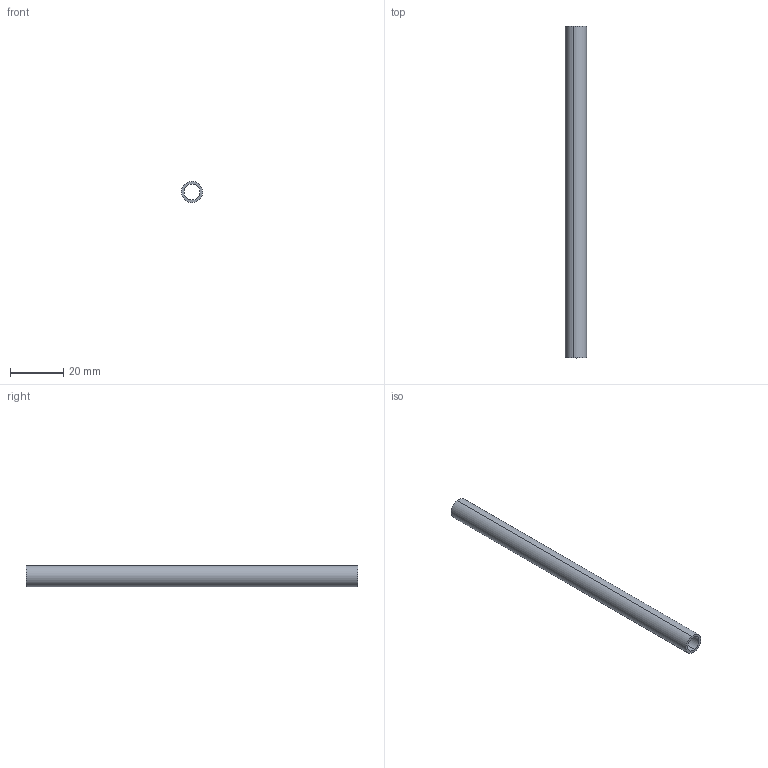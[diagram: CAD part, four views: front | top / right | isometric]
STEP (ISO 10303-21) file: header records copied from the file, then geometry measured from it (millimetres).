
FILE_DESCRIPTION (( 'STEP AP214' ), '1' );
FILE_NAME ('YIS40D-TS-08 Òðóáêà èçîëÿöèîííàÿ 8õ1.STEP', '2025-09-04T07:50:56', ( '' ), ( '' ), 'SwSTEP 2.0', 'SolidWorks 2023', '' );
FILE_SCHEMA (( 'AUTOMOTIVE_DESIGN' ));
Length unit declared in the file: millimetre
Products named in the file (1): YIS40D-TS-08 Трубка изоляционная 8х1
Bounding box: 7.99 x 125 x 7.99 mm (x, y, z)
Volume: 2748.9 mm3; surface area: 5541.8 mm2
Topology: 1 solids, 1 shells, 6 faces, 12 edges, 8 vertices
Faces by surface type: cylinder 4, plane 2
Entity records: 191 total; most frequent: DIRECTION 34, CARTESIAN_POINT 27, ORIENTED_EDGE 24, AXIS2_PLACEMENT_3D 15, EDGE_CURVE 12, VERTEX_POINT 8, EDGE_LOOP 8, CIRCLE 8
